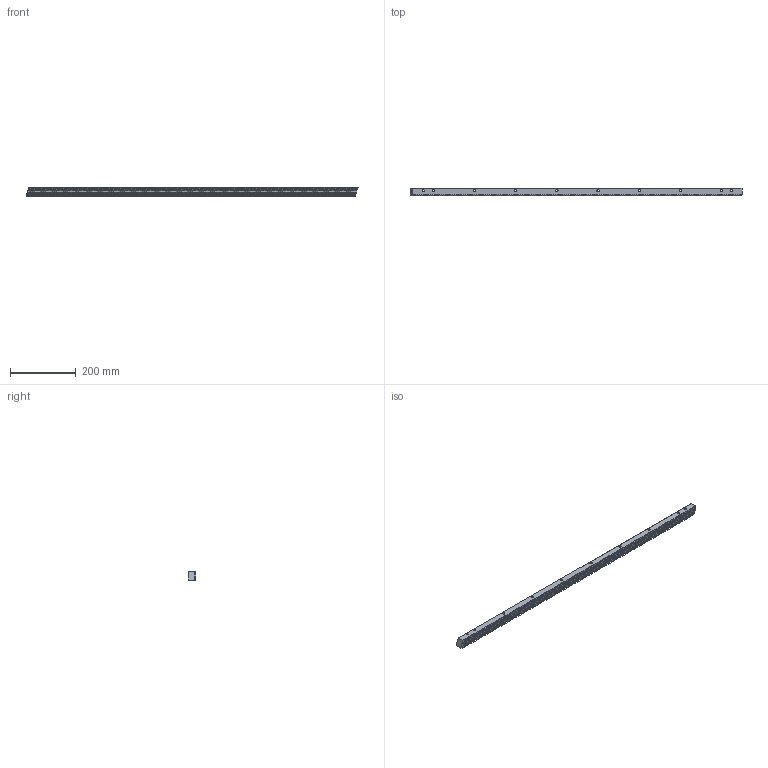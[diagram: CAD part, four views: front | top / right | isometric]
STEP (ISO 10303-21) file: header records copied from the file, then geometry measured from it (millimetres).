
FILE_DESCRIPTION(/* description */ (''),/* implementation_level */ '2;1');
FILE_NAME(/* name */ 'BL-1HR29R020100H.ipt',/* time_stamp */ '2019-06-18T14:26:43+02:00',/* author */ ('VĂ©gh MĂˇtĂ©'),/* organization */ ('Bearing Kft'),/* preprocessor_version */ 'ST-DEVELOPER v16.7',/* originating_system */ 'DEX',/* authorisation */ $);
FILE_SCHEMA (('AUTOMOTIVE_DESIGN {1 0 10303 214 3 1 1}'));
Length unit declared in the file: millimetre
Products named in the file (1): BL-1HR29R020100H.ipt
Bounding box: 1008.87 x 24 x 25 mm (x, y, z)
Volume: 532283.5 mm3; surface area: 123867.5 mm2
Topology: 1 solids, 1 shells, 1271 faces, 3612 edges, 2408 vertices
Faces by surface type: plane 872, bspline 379, cylinder 20
Full cylindrical faces by diameter (mm): 5.7 x2, 7 x8, 11 x8
Entity records: 55707 total; most frequent: CARTESIAN_POINT 15457, ORIENTED_EDGE 7168, DIRECTION 5252, EDGE_CURVE 3584, LINE 2786, VECTOR 2786, VERTEX_POINT 2408, EDGE_LOOP 1384
